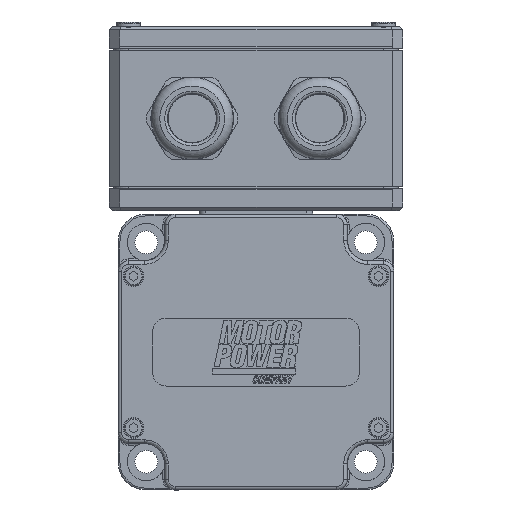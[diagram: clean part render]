
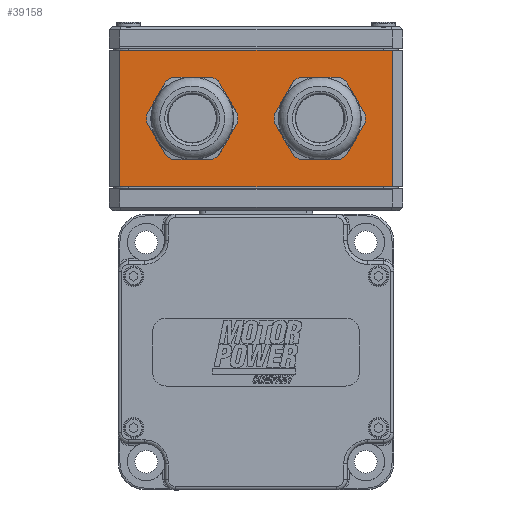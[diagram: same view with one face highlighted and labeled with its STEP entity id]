
A CAD part, front view. The second image highlights one B-rep face of the part: STEP entity #39158.
In plain terms, the highlighted planar face has unit normal (0, -1, 0) as drawn and (1, 0, 0) by its records, which use the part's own axes.
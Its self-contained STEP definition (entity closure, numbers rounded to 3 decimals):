
#2165=LINE('',#74343,#5387);
#2166=LINE('',#74346,#5388);
#2167=LINE('',#74348,#5389);
#2168=LINE('',#74350,#5390);
#5387=VECTOR('',#59645,1000.);
#5388=VECTOR('',#59646,1000.);
#5389=VECTOR('',#59647,1000.);
#5390=VECTOR('',#59648,1000.);
#8345=PLANE('',#53311);
#13487=ORIENTED_EDGE('',*,*,#22930,.T.);
#13488=ORIENTED_EDGE('',*,*,#22931,.T.);
#13489=ORIENTED_EDGE('',*,*,#22932,.T.);
#13490=ORIENTED_EDGE('',*,*,#22933,.T.);
#13491=ORIENTED_EDGE('',*,*,#22934,.F.);
#13492=ORIENTED_EDGE('',*,*,#22935,.T.);
#22930=EDGE_CURVE('',#27985,#27985,#30947,.F.);
#22931=EDGE_CURVE('',#27986,#27986,#30948,.F.);
#22932=EDGE_CURVE('',#27987,#27988,#2165,.T.);
#22933=EDGE_CURVE('',#27988,#27989,#2166,.T.);
#22934=EDGE_CURVE('',#27990,#27989,#2167,.T.);
#22935=EDGE_CURVE('',#27990,#27987,#2168,.T.);
#27985=VERTEX_POINT('',#74340);
#27986=VERTEX_POINT('',#74342);
#27987=VERTEX_POINT('',#74344);
#27988=VERTEX_POINT('',#74345);
#27989=VERTEX_POINT('',#74347);
#27990=VERTEX_POINT('',#74349);
#30947=CIRCLE('',#53312,10.625);
#30948=CIRCLE('',#53313,10.625);
#33127=EDGE_LOOP('',(#13487));
#33128=EDGE_LOOP('',(#13488));
#33129=EDGE_LOOP('',(#13489,#13490,#13491,#13492));
#36186=FACE_BOUND('',#33127,.T.);
#36187=FACE_BOUND('',#33128,.T.);
#36188=FACE_BOUND('',#33129,.T.);
#39158=ADVANCED_FACE('',(#36186,#36187,#36188),#8345,.F.);
#53311=AXIS2_PLACEMENT_3D('',#74338,#59639,#59640);
#53312=AXIS2_PLACEMENT_3D('',#74339,#59641,#59642);
#53313=AXIS2_PLACEMENT_3D('',#74341,#59643,#59644);
#59639=DIRECTION('',(-1.,0.,0.));
#59640=DIRECTION('',(0.,0.,1.));
#59641=DIRECTION('',(1.,0.,0.));
#59642=DIRECTION('',(0.,0.,-1.));
#59643=DIRECTION('',(1.,0.,0.));
#59644=DIRECTION('',(0.,0.,-1.));
#59645=DIRECTION('',(0.,1.,0.));
#59646=DIRECTION('',(0.,0.,1.));
#59647=DIRECTION('',(0.,1.,0.));
#59648=DIRECTION('',(0.,0.,-1.));
#74338=CARTESIAN_POINT('',(42.5,-42.5,39.5));
#74339=CARTESIAN_POINT('',(42.5,18.5,19.75));
#74340=CARTESIAN_POINT('',(42.5,18.5,9.125));
#74341=CARTESIAN_POINT('',(42.5,-18.5,19.75));
#74342=CARTESIAN_POINT('',(42.5,-18.5,9.125));
#74343=CARTESIAN_POINT('',(42.5,-42.5,0.));
#74344=CARTESIAN_POINT('',(42.5,-39.5,0.));
#74345=CARTESIAN_POINT('',(42.5,39.5,0.));
#74346=CARTESIAN_POINT('',(42.5,39.5,39.5));
#74347=CARTESIAN_POINT('',(42.5,39.5,39.5));
#74348=CARTESIAN_POINT('',(42.5,-42.5,39.5));
#74349=CARTESIAN_POINT('',(42.5,-39.5,39.5));
#74350=CARTESIAN_POINT('',(42.5,-39.5,39.5));
